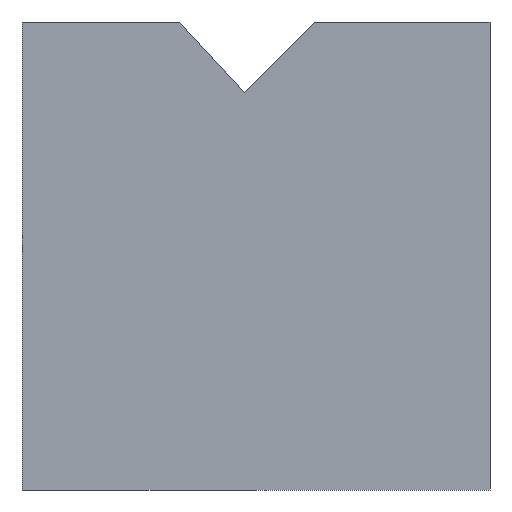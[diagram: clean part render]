
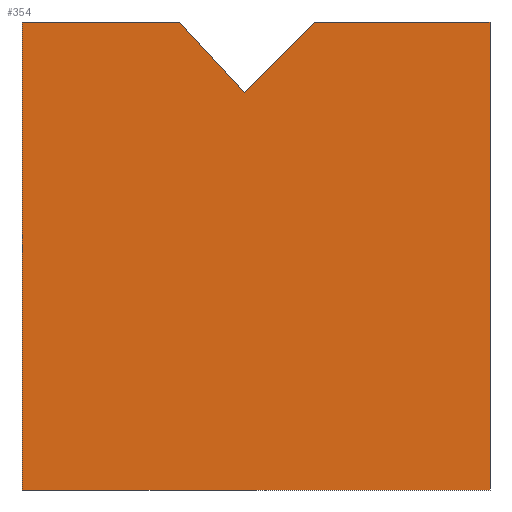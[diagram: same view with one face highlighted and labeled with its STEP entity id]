
A CAD part, left-side view. The second image highlights one B-rep face of the part: STEP entity #354.
In plain terms, the highlighted planar face has unit normal (-1, 0, 0).
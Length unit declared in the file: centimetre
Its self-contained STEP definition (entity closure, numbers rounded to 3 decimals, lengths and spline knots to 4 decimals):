
#16 = VECTOR ( 'NONE', #177, 100. ) ;
#19 = CARTESIAN_POINT ( 'NONE',  ( 0., 0., 0. ) ) ;
#20 = VERTEX_POINT ( 'NONE', #66 ) ;
#26 = VERTEX_POINT ( 'NONE', #431 ) ;
#36 = CARTESIAN_POINT ( 'NONE',  ( 0., 1000., 1000. ) ) ;
#46 = LINE ( 'NONE', #184, #195 ) ;
#66 = CARTESIAN_POINT ( 'NONE',  ( 0., 1000., 0. ) ) ;
#67 = ORIENTED_EDGE ( 'NONE', *, *, #259, .F. ) ;
#73 = DIRECTION ( 'NONE',  ( 0., -0.68, -0.733 ) ) ;
#76 = CARTESIAN_POINT ( 'NONE',  ( 0., 524.4801, 850.1416 ) ) ;
#95 = CARTESIAN_POINT ( 'NONE',  ( 0., 1000., 1000. ) ) ;
#107 = EDGE_LOOP ( 'NONE', ( #138, #308, #241, #280, #373, #340, #67 ) ) ;
#114 = EDGE_CURVE ( 'NONE', #164, #134, #215, .T. ) ;
#129 = VERTEX_POINT ( 'NONE', #213 ) ;
#131 = VECTOR ( 'NONE', #73, 100. ) ;
#134 = VERTEX_POINT ( 'NONE', #376 ) ;
#137 = VERTEX_POINT ( 'NONE', #320 ) ;
#138 = ORIENTED_EDGE ( 'NONE', *, *, #211, .F. ) ;
#142 = DIRECTION ( 'NONE',  ( 0., -1., 0. ) ) ;
#155 = DIRECTION ( 'NONE',  ( 0., 0., -1. ) ) ;
#164 = VERTEX_POINT ( 'NONE', #416 ) ;
#166 = CARTESIAN_POINT ( 'NONE',  ( 0., 1000., 1000. ) ) ;
#174 = VECTOR ( 'NONE', #155, 100. ) ;
#177 = DIRECTION ( 'NONE',  ( 0., -1., 0. ) ) ;
#184 = CARTESIAN_POINT ( 'NONE',  ( 0., 1000., 1000. ) ) ;
#194 = DIRECTION ( 'NONE',  ( 0., -0.707, 0.707 ) ) ;
#195 = VECTOR ( 'NONE', #321, 100. ) ;
#204 = VECTOR ( 'NONE', #142, 100. ) ;
#205 = VECTOR ( 'NONE', #194, 100. ) ;
#211 = EDGE_CURVE ( 'NONE', #137, #129, #261, .T. ) ;
#213 = CARTESIAN_POINT ( 'NONE',  ( 0., 0., 1000. ) ) ;
#215 = LINE ( 'NONE', #76, #131 ) ;
#216 = EDGE_CURVE ( 'NONE', #20, #396, #355, .T. ) ;
#222 = CARTESIAN_POINT ( 'NONE',  ( 0., 0., 1000. ) ) ;
#234 = LINE ( 'NONE', #166, #174 ) ;
#241 = ORIENTED_EDGE ( 'NONE', *, *, #114, .F. ) ;
#259 = EDGE_CURVE ( 'NONE', #129, #396, #293, .T. ) ;
#261 = LINE ( 'NONE', #36, #16 ) ;
#264 = DIRECTION ( 'NONE',  ( 1., 0., 0. ) ) ;
#273 = AXIS2_PLACEMENT_3D ( 'NONE', #95, #264, #420 ) ;
#280 = ORIENTED_EDGE ( 'NONE', *, *, #319, .F. ) ;
#291 = VECTOR ( 'NONE', #315, 100. ) ;
#293 = LINE ( 'NONE', #222, #291 ) ;
#299 = PLANE ( 'NONE',  #273 ) ;
#304 = FACE_OUTER_BOUND ( 'NONE', #107, .T. ) ;
#308 = ORIENTED_EDGE ( 'NONE', *, *, #348, .F. ) ;
#315 = DIRECTION ( 'NONE',  ( 0., 0., -1. ) ) ;
#319 = EDGE_CURVE ( 'NONE', #26, #164, #46, .T. ) ;
#320 = CARTESIAN_POINT ( 'NONE',  ( 0., 374.6216, 1000. ) ) ;
#321 = DIRECTION ( 'NONE',  ( 0., -1., 0. ) ) ;
#328 = CARTESIAN_POINT ( 'NONE',  ( 0., 374.6216, 1000. ) ) ;
#337 = EDGE_CURVE ( 'NONE', #26, #20, #234, .T. ) ;
#340 = ORIENTED_EDGE ( 'NONE', *, *, #216, .T. ) ;
#344 = CARTESIAN_POINT ( 'NONE',  ( 0., 1000., 0. ) ) ;
#348 = EDGE_CURVE ( 'NONE', #134, #137, #357, .T. ) ;
#354 = ADVANCED_FACE ( 'NONE', ( #304 ), #299, .F. ) ;
#355 = LINE ( 'NONE', #344, #204 ) ;
#357 = LINE ( 'NONE', #328, #205 ) ;
#373 = ORIENTED_EDGE ( 'NONE', *, *, #337, .T. ) ;
#376 = CARTESIAN_POINT ( 'NONE',  ( 0., 524.4801, 850.1416 ) ) ;
#396 = VERTEX_POINT ( 'NONE', #19 ) ;
#416 = CARTESIAN_POINT ( 'NONE',  ( 0., 663.4286, 1000. ) ) ;
#420 = DIRECTION ( 'NONE',  ( 0., 0., -1. ) ) ;
#431 = CARTESIAN_POINT ( 'NONE',  ( 0., 1000., 1000. ) ) ;
